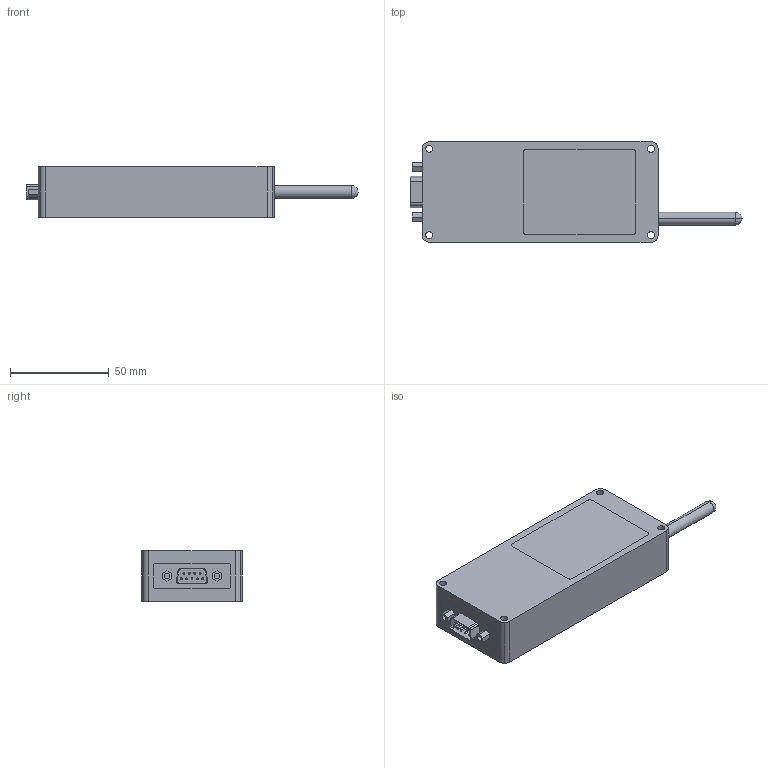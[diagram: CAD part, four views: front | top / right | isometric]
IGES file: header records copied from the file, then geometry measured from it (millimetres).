
Global section: file name: C:\Documents and Settings\Administrator\Desktop\Transfer Temp\rcmodem.igs; native system: AutoDesk Inventor R2.0 ; preprocessor: AutoDesk Inventor Iges Exporter R2.0; author: No Author specified; organization: No Organization specified; date: 20020113.132321; units: inch
Bounding box: 168.03 x 50.8 x 25.4 mm (x, y, z)
Surface area: 29770.1 mm2 (no closed solid volume)
Topology: 0 solids, 0 shells, 154 faces, 774 edges, 772 vertices
Faces by surface type: revolution 90, bspline 64
